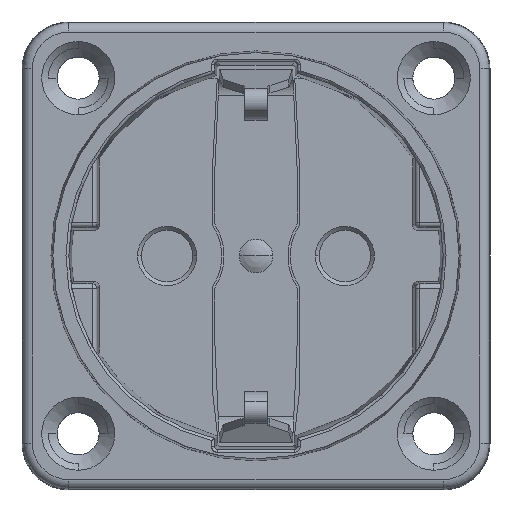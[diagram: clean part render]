
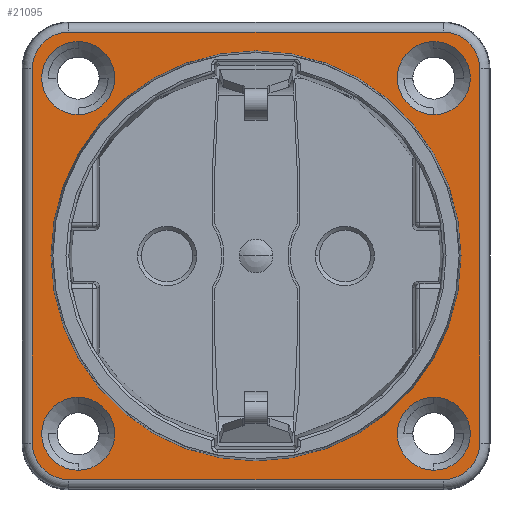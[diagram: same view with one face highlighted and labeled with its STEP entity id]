
A CAD part, top view. The second image highlights one B-rep face of the part: STEP entity #21095.
In plain terms, the highlighted planar face has unit normal (0, 0, 1).
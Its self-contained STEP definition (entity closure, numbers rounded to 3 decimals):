
#1145=CARTESIAN_POINT('',(0.,0.,8.3));
#1146=DIRECTION('',(0.,0.,-1.));
#1147=DIRECTION('',(0.,1.,0.));
#1148=AXIS2_PLACEMENT_3D('',#1145,#1146,#1147);
#1150=CARTESIAN_POINT('',(0.,0.,8.3));
#1151=DIRECTION('',(0.,0.,-1.));
#1152=DIRECTION('',(0.,-1.,0.));
#1153=AXIS2_PLACEMENT_3D('',#1150,#1151,#1152);
#1155=CARTESIAN_POINT('',(19.,-19.,8.3));
#1156=DIRECTION('',(0.,0.,1.));
#1157=DIRECTION('',(0.,1.,0.));
#1158=AXIS2_PLACEMENT_3D('',#1155,#1156,#1157);
#1160=CARTESIAN_POINT('',(19.,-19.,8.3));
#1161=DIRECTION('',(0.,0.,1.));
#1162=DIRECTION('',(0.,-1.,0.));
#1163=AXIS2_PLACEMENT_3D('',#1160,#1161,#1162);
#1165=CARTESIAN_POINT('',(-19.,-19.,8.3));
#1166=DIRECTION('',(0.,0.,-1.));
#1167=DIRECTION('',(0.,1.,0.));
#1168=AXIS2_PLACEMENT_3D('',#1165,#1166,#1167);
#1170=CARTESIAN_POINT('',(-19.,-19.,8.3));
#1171=DIRECTION('',(0.,0.,-1.));
#1172=DIRECTION('',(0.,-1.,0.));
#1173=AXIS2_PLACEMENT_3D('',#1170,#1171,#1172);
#1175=CARTESIAN_POINT('',(19.,19.,8.3));
#1176=DIRECTION('',(0.,0.,-1.));
#1177=DIRECTION('',(0.,-1.,0.));
#1178=AXIS2_PLACEMENT_3D('',#1175,#1176,#1177);
#1180=CARTESIAN_POINT('',(19.,19.,8.3));
#1181=DIRECTION('',(0.,0.,-1.));
#1182=DIRECTION('',(0.,1.,0.));
#1183=AXIS2_PLACEMENT_3D('',#1180,#1181,#1182);
#1185=CARTESIAN_POINT('',(-19.,19.,8.3));
#1186=DIRECTION('',(0.,0.,1.));
#1187=DIRECTION('',(0.,-1.,0.));
#1188=AXIS2_PLACEMENT_3D('',#1185,#1186,#1187);
#1190=CARTESIAN_POINT('',(-19.,19.,8.3));
#1191=DIRECTION('',(0.,0.,1.));
#1192=DIRECTION('',(0.,1.,0.));
#1193=AXIS2_PLACEMENT_3D('',#1190,#1191,#1192);
#1195=CARTESIAN_POINT('',(-20.,-20.,8.3));
#1196=DIRECTION('',(0.,0.,-1.));
#1197=DIRECTION('',(0.,-1.,0.));
#1198=AXIS2_PLACEMENT_3D('',#1195,#1196,#1197);
#1210=DIRECTION('',(-1.,0.,0.));
#1211=VECTOR('',#1210,40.);
#1212=CARTESIAN_POINT('',(20.,-23.904,8.3));
#1213=LINE('1312',#1212,#1211);
#1223=CARTESIAN_POINT('',(20.,-20.,8.3));
#1224=DIRECTION('',(0.,0.,-1.));
#1225=DIRECTION('',(1.,0.,0.));
#1226=AXIS2_PLACEMENT_3D('',#1223,#1224,#1225);
#1238=DIRECTION('',(0.,-1.,0.));
#1239=VECTOR('',#1238,40.);
#1240=CARTESIAN_POINT('',(23.904,20.,8.3));
#1241=LINE('1316',#1240,#1239);
#1251=CARTESIAN_POINT('',(20.,20.,8.3));
#1252=DIRECTION('',(0.,0.,-1.));
#1253=DIRECTION('',(0.,1.,0.));
#1254=AXIS2_PLACEMENT_3D('',#1251,#1252,#1253);
#1266=DIRECTION('',(1.,0.,0.));
#1267=VECTOR('',#1266,40.);
#1268=CARTESIAN_POINT('',(-20.,23.904,8.3));
#1269=LINE('1455',#1268,#1267);
#1274=CARTESIAN_POINT('',(-20.,20.,8.3));
#1275=DIRECTION('',(0.,0.,-1.));
#1276=DIRECTION('',(-1.,0.,0.));
#1277=AXIS2_PLACEMENT_3D('',#1274,#1275,#1276);
#1294=DIRECTION('',(0.,1.,0.));
#1295=VECTOR('',#1294,40.);
#1296=CARTESIAN_POINT('',(-23.904,-20.,8.3));
#1297=LINE('1308',#1296,#1295);
#16221=CARTESIAN_POINT('',(-23.904,20.,8.3));
#16222=CARTESIAN_POINT('',(-20.,23.904,8.3));
#16223=VERTEX_POINT('',#16221);
#16224=VERTEX_POINT('',#16222);
#16229=CARTESIAN_POINT('',(-23.904,-20.,8.3));
#16230=VERTEX_POINT('',#16229);
#16233=CARTESIAN_POINT('',(-20.,-23.904,8.3));
#16234=VERTEX_POINT('',#16233);
#16237=CARTESIAN_POINT('',(20.,-23.904,8.3));
#16238=VERTEX_POINT('',#16237);
#16241=CARTESIAN_POINT('',(23.904,-20.,8.3));
#16242=VERTEX_POINT('',#16241);
#16245=CARTESIAN_POINT('',(23.904,20.,8.3));
#16246=VERTEX_POINT('',#16245);
#16249=CARTESIAN_POINT('',(20.,23.904,8.3));
#16250=VERTEX_POINT('',#16249);
#16417=CARTESIAN_POINT('',(19.,-15.1,8.3));
#16418=CARTESIAN_POINT('',(19.,-22.9,8.3));
#16419=VERTEX_POINT('',#16417);
#16420=VERTEX_POINT('',#16418);
#16425=CARTESIAN_POINT('',(-19.,-15.1,8.3));
#16426=CARTESIAN_POINT('',(-19.,-22.9,8.3));
#16427=VERTEX_POINT('',#16425);
#16428=VERTEX_POINT('',#16426);
#16433=CARTESIAN_POINT('',(19.,15.1,8.3));
#16434=CARTESIAN_POINT('',(19.,22.9,8.3));
#16435=VERTEX_POINT('',#16433);
#16436=VERTEX_POINT('',#16434);
#16441=CARTESIAN_POINT('',(-19.,15.1,8.3));
#16442=CARTESIAN_POINT('',(-19.,22.9,8.3));
#16443=VERTEX_POINT('',#16441);
#16444=VERTEX_POINT('',#16442);
#16575=CARTESIAN_POINT('',(0.,21.906,8.3));
#16576=CARTESIAN_POINT('',(0.,-21.906,8.3));
#16577=VERTEX_POINT('',#16575);
#16578=VERTEX_POINT('',#16576);
#21043=CARTESIAN_POINT('',(0.,0.,8.3));
#21044=DIRECTION('',(0.,0.,-1.));
#21045=DIRECTION('',(1.,0.,0.));
#21046=AXIS2_PLACEMENT_3D('',#21043,#21044,#21045);
#21047=PLANE('76',#21046);
#21049=ORIENTED_EDGE('1310',*,*,#21048,.T.);
#21051=ORIENTED_EDGE('1308',*,*,#21050,.T.);
#21053=ORIENTED_EDGE('1305',*,*,#21052,.T.);
#21055=ORIENTED_EDGE('1455',*,*,#21054,.T.);
#21057=ORIENTED_EDGE('1318',*,*,#21056,.T.);
#21059=ORIENTED_EDGE('1316',*,*,#21058,.T.);
#21061=ORIENTED_EDGE('1314',*,*,#21060,.T.);
#21063=ORIENTED_EDGE('1312',*,*,#21062,.T.);
#21064=EDGE_LOOP('76',(#21049,#21051,#21053,#21055,#21057,#21059,#21061,
#21063));
#21065=FACE_OUTER_BOUND('76',#21064,.F.);
#21067=ORIENTED_EDGE('1594',*,*,#21066,.F.);
#21068=ORIENTED_EDGE('1595',*,*,#21026,.F.);
#21069=EDGE_LOOP('76',(#21067,#21068));
#21070=FACE_BOUND('76',#21069,.F.);
#21072=ORIENTED_EDGE('1466',*,*,#21071,.T.);
#21074=ORIENTED_EDGE('1467',*,*,#21073,.T.);
#21075=EDGE_LOOP('76',(#21072,#21074));
#21076=FACE_BOUND('76',#21075,.F.);
#21078=ORIENTED_EDGE('1472',*,*,#21077,.F.);
#21080=ORIENTED_EDGE('1473',*,*,#21079,.F.);
#21081=EDGE_LOOP('76',(#21078,#21080));
#21082=FACE_BOUND('76',#21081,.F.);
#21084=ORIENTED_EDGE('1478',*,*,#21083,.F.);
#21086=ORIENTED_EDGE('1479',*,*,#21085,.F.);
#21087=EDGE_LOOP('76',(#21084,#21086));
#21088=FACE_BOUND('76',#21087,.F.);
#21090=ORIENTED_EDGE('1484',*,*,#21089,.T.);
#21092=ORIENTED_EDGE('1485',*,*,#21091,.T.);
#21093=EDGE_LOOP('76',(#21090,#21092));
#21094=FACE_BOUND('76',#21093,.F.);
#1149=CIRCLE('1594',#1148,21.906);
#1154=CIRCLE('1595',#1153,21.906);
#1159=CIRCLE('1466',#1158,3.9);
#1164=CIRCLE('1467',#1163,3.9);
#1169=CIRCLE('1472',#1168,3.9);
#1174=CIRCLE('1473',#1173,3.9);
#1179=CIRCLE('1478',#1178,3.9);
#1184=CIRCLE('1479',#1183,3.9);
#1189=CIRCLE('1484',#1188,3.9);
#1194=CIRCLE('1485',#1193,3.9);
#1199=CIRCLE('1310',#1198,3.904);
#1227=CIRCLE('1314',#1226,3.904);
#1255=CIRCLE('1318',#1254,3.904);
#1278=CIRCLE('1305',#1277,3.904);
#21026=EDGE_CURVE('1595',#16578,#16577,#1154,.T.);
#21048=EDGE_CURVE('1310',#16234,#16230,#1199,.T.);
#21050=EDGE_CURVE('1308',#16230,#16223,#1297,.T.);
#21052=EDGE_CURVE('1305',#16223,#16224,#1278,.T.);
#21054=EDGE_CURVE('1455',#16224,#16250,#1269,.T.);
#21056=EDGE_CURVE('1318',#16250,#16246,#1255,.T.);
#21058=EDGE_CURVE('1316',#16246,#16242,#1241,.T.);
#21060=EDGE_CURVE('1314',#16242,#16238,#1227,.T.);
#21062=EDGE_CURVE('1312',#16238,#16234,#1213,.T.);
#21066=EDGE_CURVE('1594',#16577,#16578,#1149,.T.);
#21071=EDGE_CURVE('1466',#16419,#16420,#1159,.T.);
#21073=EDGE_CURVE('1467',#16420,#16419,#1164,.T.);
#21077=EDGE_CURVE('1472',#16427,#16428,#1169,.T.);
#21079=EDGE_CURVE('1473',#16428,#16427,#1174,.T.);
#21083=EDGE_CURVE('1478',#16435,#16436,#1179,.T.);
#21085=EDGE_CURVE('1479',#16436,#16435,#1184,.T.);
#21089=EDGE_CURVE('1484',#16443,#16444,#1189,.T.);
#21091=EDGE_CURVE('1485',#16444,#16443,#1194,.T.);
#21095=ADVANCED_FACE('76',(#21065,#21070,#21076,#21082,#21088,#21094),#21047,
.F.);
